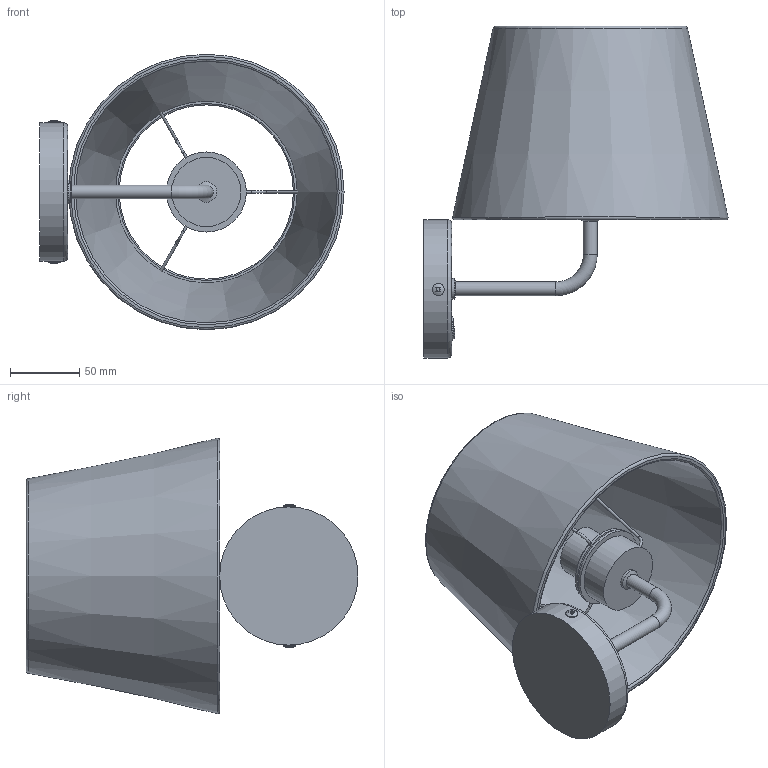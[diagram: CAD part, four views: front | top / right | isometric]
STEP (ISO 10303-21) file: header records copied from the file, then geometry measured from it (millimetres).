
FILE_DESCRIPTION(/* description */ (''),/* implementation_level */ '2;1');
FILE_NAME(/* name */ 'C:/Users/kubaw/OneDrive/Pulpit/Nowy folder/1882_MAJA/1882_MAJA v4.step',/* time_stamp */ '2021-03-13T09:36:44+01:00',/* author */ (''),/* organization */ (''),/* preprocessor_version */ 'ST-DEVELOPER v18.1',/* originating_system */ 'Autodesk Translation Framework v9.10.0.1330',/* authorisation */ '');
FILE_SCHEMA (('AUTOMOTIVE_DESIGN { 1 0 10303 214 3 1 1 }'));
Length unit declared in the file: millimetre
Products named in the file (4): 1882_MAJA; MOCOWANIE_MAJA; ŚRUBA MAJA; ŚRUBA MAJA v3(Mirror)
Assembly tree (3 placements, depth 2):
  1882_MAJA
    MOCOWANIE_MAJA
    ŚRUBA MAJA
    ŚRUBA MAJA v3(Mirror)
Bounding box: 219.98 x 240 x 199.29 mm (x, y, z)
Volume: 646133.3 mm3; surface area: 217983.4 mm2
Topology: 18 solids, 18 shells, 116 faces, 227 edges, 148 vertices
Faces by surface type: plane 61, cylinder 35, torus 12, bspline 4, cone 4
Full cylindrical faces by diameter (mm): 2 x6, 8.656 x2, 10 x4, 15 x3, 15.2 x1, 17.2 x1, 31 x1, 36 x1, 37 x1, 40 x1, 50 x2, 56 x1, 58 x1, 100 x1, 126 x1
Entity records: 3466 total; most frequent: CARTESIAN_POINT 882, DIRECTION 553, ORIENTED_EDGE 454, AXIS2_PLACEMENT_3D 233, EDGE_CURVE 227, VERTEX_POINT 148, EDGE_LOOP 127, FACE_OUTER_BOUND 116
